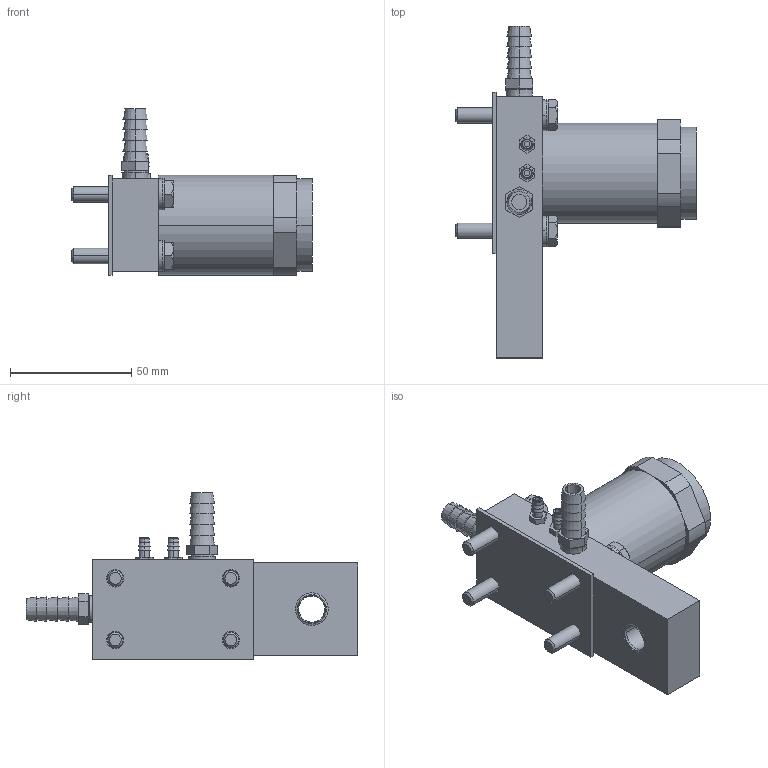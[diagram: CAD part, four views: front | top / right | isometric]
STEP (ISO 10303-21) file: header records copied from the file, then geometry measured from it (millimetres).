
FILE_DESCRIPTION((''),'2;1');
FILE_NAME('UJR4_ASM','2017-08-24T',('jennifer.elliott'),('CenterLine (Windsor) Ltd - Automation Components Division'),'PRO/ENGINEER BY PARAMETRIC TECHNOLOGY CORPORATION, 2015030','PRO/ENGINEER BY PARAMETRIC TECHNOLOGY CORPORATION, 2015030','');
FILE_SCHEMA(('AUTOMOTIVE_DESIGN { 1 0 10303 214 1 1 1 1 }'));
Length unit declared in the file: inch
Products named in the file (23): PRT0423; PRT0424; PRT0425; PRT0426; PRT0427; PRT0428; PRT0429; PRT0430; PRT0431; PRT0432; PRT0433; PRT0434; PRT0435; PRT0436; PRT0437; PRT0438; PRT0439; PRT0440; PRT0441; PRT0442; PRT0443; PRT0444; UJR4_ASM
Assembly tree (22 placements, depth 2):
  UJR4_ASM
    PRT0423
    PRT0424
    PRT0425
    PRT0426
    PRT0427
    PRT0428
    PRT0429
    PRT0430
    PRT0431
    PRT0432
    PRT0433
    PRT0434
    PRT0435
    PRT0436
    PRT0437
    PRT0438
    PRT0439
    PRT0440
    PRT0441
    PRT0442
    PRT0443
    PRT0444
Bounding box: 99.25 x 136.91 x 68.64 mm (x, y, z)
Volume: 171866.5 mm3; surface area: 52066.8 mm2
Topology: 22 solids, 22 shells, 314 faces, 690 edges, 448 vertices
Faces by surface type: plane 134, cylinder 100, cone 72, torus 8
Entity records: 10439 total; most frequent: CARTESIAN_POINT 1816, DIRECTION 1692, ORIENTED_EDGE 1380, AXIS2_PLACEMENT_3D 691, EDGE_CURVE 690, VERTEX_POINT 448, EDGE_LOOP 386, CIRCLE 332
